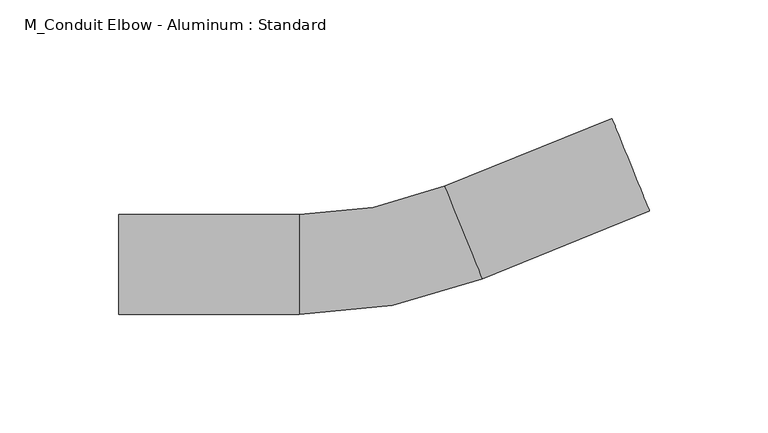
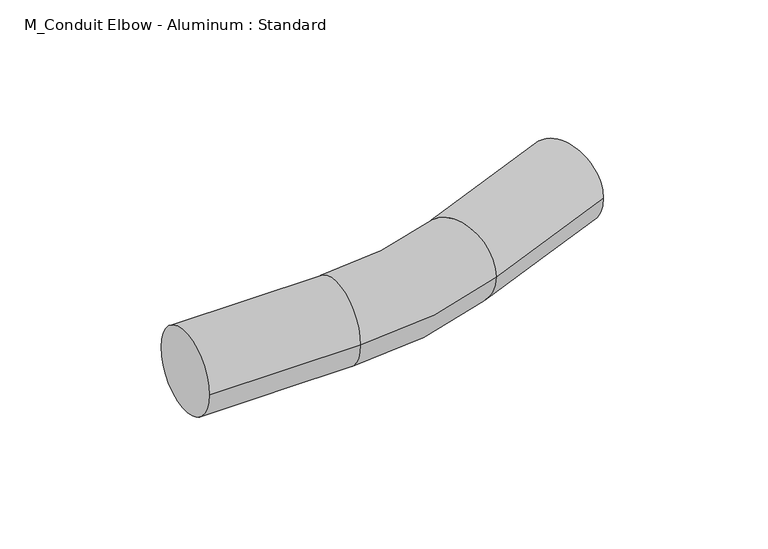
"""IFC4 building model written with IfcOpenShell, lengths in millimetres: cable carrier fitting geometry, M_Conduit Elbow - Aluminum : Standard."""

from ifc_helpers import new_model, si_unit, point, frame, origin, place, context, project, spatial, circle_curve, ellipse_curve, trimmed, source, transform, mapped, element, save
from ifc_brep_helpers import plane_surface, cylinder_surface, revolved_surface, advanced_brep


def m_conduit_elbow_aluminum_standard_c8fb4655(model_context):
    return source(origin(), model_context, "Body", "AdvancedBrep", [
        advanced_brep(
        [(-112.1386718, -21.082, 0.0), (-112.1386718, 21.082, 0.0), (-35.9386718, -21.082, 0.0), (-35.9386718, 21.082, 0.0), (25.3746925, 33.0479021, 0.0), (41.2283038, -6.0221107, 0.0), (111.8367608, 22.6289941, 0.0), (95.9831494, 61.6990069, 0.0)],
        [
            (0, 1, circle_curve(frame((-112.1386718, 0.0, 0.0), z_axis=(-1.0, 0.0, 0.0), x_axis=(0.0, 1.0, 0.0)), 21.082)),
            (1, 0, circle_curve(frame((-112.1386718, 0.0, 0.0), z_axis=(-1.0, 0.0, 0.0), x_axis=(0.0, 1.0, 0.0)), 21.082)),
            (0, 2),
            (2, 3, circle_curve(frame((-35.9386718, 0.0, 0.0), z_axis=(-1.0, 0.0, 0.0), x_axis=(0.0, 1.0, 0.0)), 21.082)),
            (3, 1),
            (3, 2, circle_curve(frame((-35.9386718, 0.0, 0.0), z_axis=(-1.0, 0.0, 0.0), x_axis=(0.0, 1.0, 0.0)), 21.082)),
            (4, 3, circle_curve(frame((-35.9386718, 184.15, 0.0), z_axis=(0.0, 0.0, -1.0), x_axis=(0.0, -1.0, 0.0)), 163.068)),
            (2, 5, circle_curve(frame((-35.9386718, 184.15, 0.0), z_axis=(0.0, 0.0, 1.0), x_axis=(0.0, -1.0, 0.0)), 205.232)),
            (5, 4, circle_curve(frame((33.3014982, 13.5128957, 0.0), z_axis=(-0.9266201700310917, -0.37599875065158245, 0.0), x_axis=(-0.37599875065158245, 0.9266201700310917, 0.0)), 21.082)),
            (4, 5, circle_curve(frame((33.3014982, 13.5128957, 0.0), z_axis=(-0.9266201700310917, -0.37599875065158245, 0.0), x_axis=(-0.37599875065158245, 0.9266201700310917, 0.0)), 21.082)),
            (6, 7, circle_curve(frame((103.9099551, 42.1640005, 0.0), z_axis=(0.9266201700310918, 0.3759987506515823, 0.0), x_axis=(-0.3759987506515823, 0.9266201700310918, 0.0)), 21.082)),
            (7, 6, circle_curve(frame((103.9099551, 42.1640005, 0.0), z_axis=(0.9266201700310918, 0.3759987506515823, 0.0), x_axis=(-0.3759987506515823, 0.9266201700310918, 0.0)), 21.082)),
            (5, 6),
            (7, 4),
        ],
        [
            plane_surface(frame((-112.1386718, 0.0, 0.0), z_axis=(-1.0, 0.0, 0.0), x_axis=(0.0, 0.0, 1.0))),
            cylinder_surface(frame((-112.1386718, 0.0, 0.0), z_axis=(-1.0, 0.0, 0.0), x_axis=(0.0, 1.0, 0.0)), 21.082),
            revolved_surface(trimmed(ellipse_curve(frame((-35.9386718, 0.0, 0.0), z_axis=(-1.0, 0.0, 0.0), x_axis=(0.0, 1.0, 0.0)), 21.082, 21.082), [point((-35.9386718, -21.082, 0.0))], [point((-35.9386718, 21.082, 0.0))], True, "CARTESIAN"), (-35.9386718, 184.15, 0.0), (0.0, 0.0, 1.0)),
            revolved_surface(trimmed(ellipse_curve(frame((-35.9386718, 0.0, 0.0), z_axis=(-1.0, 0.0, 0.0), x_axis=(0.0, 1.0, 0.0)), 21.082, 21.082), [point((-35.9386718, 21.082, 0.0))], [point((-35.9386718, -21.082, 0.0))], True, "CARTESIAN"), (-35.9386718, 184.15, 0.0), (0.0, 0.0, 1.0)),
            plane_surface(frame((103.9099551, 42.1640005, 0.0), z_axis=(0.9266201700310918, 0.3759987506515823, 0.0), x_axis=(0.0, 0.0, 1.0))),
            cylinder_surface(frame((33.3014982, 13.5128957, 0.0), z_axis=(-0.9266201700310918, -0.3759987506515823, 0.0), x_axis=(-0.3759987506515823, 0.9266201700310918, 0.0)), 21.082),
        ],
        [
            (0, [[1, 2]]),
            (1, [[-1, 3, 4, 5]]),
            (1, [[-2, -5, 6, -3]]),
            (2, [[7, -4, 8, 9]]),
            (3, [[-8, -6, -7, 10]]),
            (4, [[11, 12]]),
            (5, [[-9, 13, -12, 14]]),
            (5, [[-10, -14, -11, -13]]),
        ],
    ),
    ])


if __name__ == "__main__":
    model = new_model("IFC4")
    model_context = context("Model", 3, world=origin())
    ifc_project = project(units=[si_unit("LENGTHUNIT", "METRE", prefix="MILLI")], contexts=[model_context])
    site = spatial("IfcSite", under=ifc_project)
    building = spatial("IfcBuilding", under=site)
    placement = place(None, origin())
    m_conduit_elbow_aluminum_standard_shape = m_conduit_elbow_aluminum_standard_c8fb4655(model_context)
    element("IfcCableCarrierFitting", 1, ObjectType="M_Conduit Elbow - Aluminum : Standard", at=placement, inside=building, context=model_context, shape_type="MappedRepresentation", body=[
        mapped(m_conduit_elbow_aluminum_standard_shape, transform((0.0, 0.0, 0.0), x_axis=(1.0, 0.0, 0.0), y_axis=(0.0, 1.0, 0.0), z_axis=(0.0, 0.0, 1.0))),
    ])
    save(model, "model.ifc")
